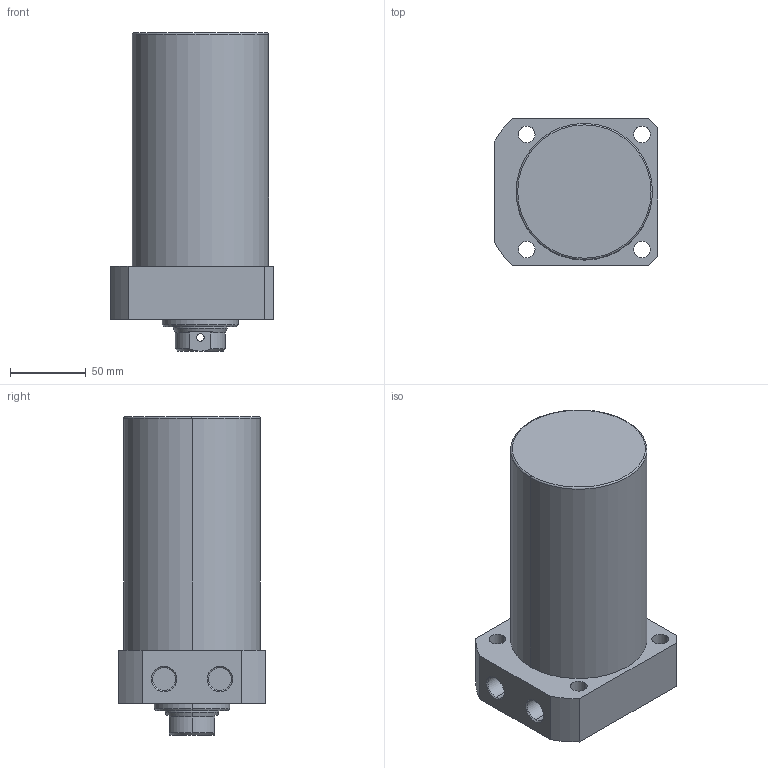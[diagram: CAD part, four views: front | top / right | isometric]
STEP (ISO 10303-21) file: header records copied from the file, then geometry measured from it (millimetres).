
FILE_DESCRIPTION (( 'STEP AP203' ), '1' );
FILE_NAME ('CLLR-090CB-110.STEP', '2019-12-18T06:15:35', ( '' ), ( '' ), 'SwSTEP 2.0', 'SolidWorks 2015', '' );
FILE_SCHEMA (( 'CONFIG_CONTROL_DESIGN' ));
Length unit declared in the file: millimetre
Products named in the file (1): CLLR-090CB-110
Bounding box: 108 x 97 x 210 mm (x, y, z)
Volume: 1328362.1 mm3; surface area: 88753 mm2
Topology: 1 solids, 1 shells, 69 faces, 163 edges, 102 vertices
Faces by surface type: cylinder 33, plane 19, cone 15, torus 2
Entity records: 2229 total; most frequent: CARTESIAN_POINT 497, DIRECTION 370, ORIENTED_EDGE 322, EDGE_CURVE 161, AXIS2_PLACEMENT_3D 151, VERTEX_POINT 102, EDGE_LOOP 89, CIRCLE 81
